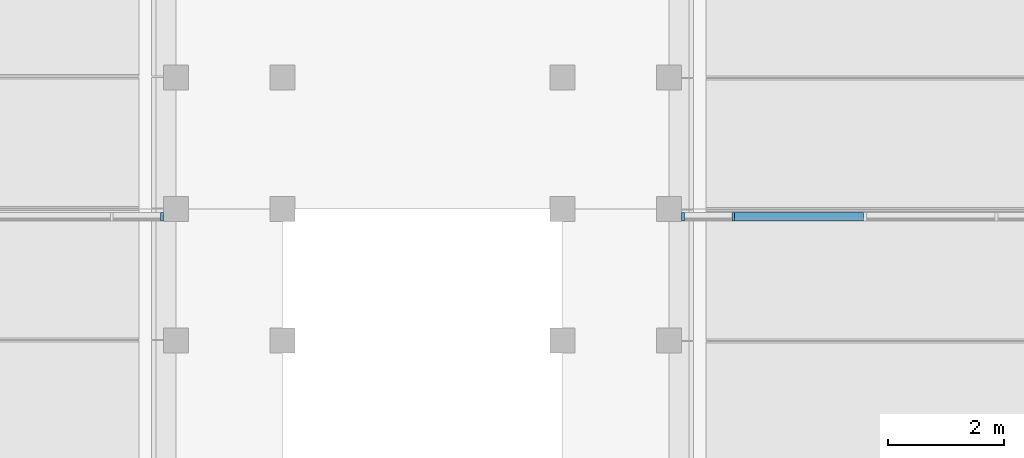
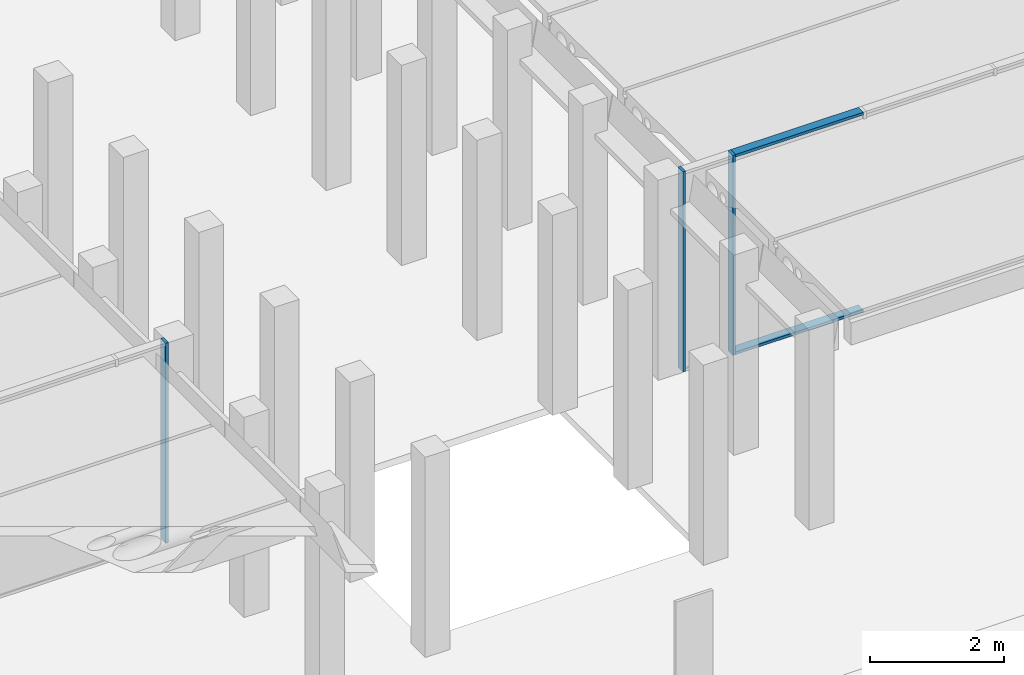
# One storey, part 10 of 25: 5 members, 2 elements without a shape of their own.
"""IFC2X3 building model written with IfcOpenShell, lengths in millimetres."""

from ifc_helpers import new_model, entity, si_unit, converted_unit, derived_unit, direction, frame, origin, origin_2d_with_axis, place, context, subcontext, project, spatial, rectangle, extrude, source, transform, mapped, material, type_object, type_shapes, element, aggregate, save


model = new_model("IFC2X3")

# Units and contexts
model_context = context("Model", 3, precision=0.01, world=origin(), true_north=direction((6.12303176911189e-17, 1.0)))
body_context = subcontext(model_context, "Body", "Model", "MODEL_VIEW")
ifc_project = project(units=[si_unit("LENGTHUNIT", "METRE", prefix="MILLI"), si_unit("AREAUNIT", "SQUARE_METRE"), si_unit("VOLUMEUNIT", "CUBIC_METRE"), converted_unit("PLANEANGLEUNIT", "DEGREE", entity("IfcRatioMeasure", 0.0174532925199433), si_unit("PLANEANGLEUNIT", "RADIAN"), dimensions=[0, 0, 0, 0, 0, 0, 0]), si_unit("MASSUNIT", "GRAM", prefix="KILO"), derived_unit("MASSDENSITYUNIT", [(si_unit("MASSUNIT", "GRAM", prefix="KILO"), 1), (si_unit("LENGTHUNIT", "METRE"), -3)]), derived_unit("MOMENTOFINERTIAUNIT", [(si_unit("LENGTHUNIT", "METRE"), 4)]), si_unit("TIMEUNIT", "SECOND"), si_unit("FREQUENCYUNIT", "HERTZ"), si_unit("THERMODYNAMICTEMPERATUREUNIT", "DEGREE_CELSIUS"), derived_unit("THERMALTRANSMITTANCEUNIT", [(si_unit("MASSUNIT", "GRAM", prefix="KILO"), 1), (si_unit("THERMODYNAMICTEMPERATUREUNIT", "KELVIN"), -1), (si_unit("TIMEUNIT", "SECOND"), -3)]), derived_unit("VOLUMETRICFLOWRATEUNIT", [(si_unit("LENGTHUNIT", "METRE"), 3), (si_unit("TIMEUNIT", "SECOND"), -1)]), si_unit("ELECTRICCURRENTUNIT", "AMPERE"), si_unit("ELECTRICVOLTAGEUNIT", "VOLT"), si_unit("POWERUNIT", "WATT"), si_unit("FORCEUNIT", "NEWTON", prefix="KILO"), si_unit("ILLUMINANCEUNIT", "LUX"), si_unit("LUMINOUSFLUXUNIT", "LUMEN"), si_unit("LUMINOUSINTENSITYUNIT", "CANDELA"), derived_unit("USERDEFINED", [(si_unit("MASSUNIT", "GRAM", prefix="KILO"), -1), (si_unit("LENGTHUNIT", "METRE"), -2), (si_unit("TIMEUNIT", "SECOND"), 3), (si_unit("LUMINOUSFLUXUNIT", "LUMEN"), 1)]), derived_unit("LINEARVELOCITYUNIT", [(si_unit("LENGTHUNIT", "METRE"), 1), (si_unit("TIMEUNIT", "SECOND"), -1)]), si_unit("PRESSUREUNIT", "PASCAL"), derived_unit("USERDEFINED", [(si_unit("LENGTHUNIT", "METRE"), -2), (si_unit("MASSUNIT", "GRAM", prefix="KILO"), 1), (si_unit("TIMEUNIT", "SECOND"), -2)]), derived_unit("LINEARFORCEUNIT", [(si_unit("MASSUNIT", "GRAM", prefix="KILO"), 1), (si_unit("LENGTHUNIT", "METRE"), 1), (si_unit("TIMEUNIT", "SECOND"), -2), (si_unit("LENGTHUNIT", "METRE"), -1)]), derived_unit("PLANARFORCEUNIT", [(si_unit("MASSUNIT", "GRAM", prefix="KILO"), 1), (si_unit("LENGTHUNIT", "METRE"), 1), (si_unit("TIMEUNIT", "SECOND"), -2), (si_unit("LENGTHUNIT", "METRE"), -2)])], contexts=[model_context])

# Site, building, storey
site_placement = place(None, frame((10627.5135316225, 21939.0796949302, 0.0)))
site = spatial("IfcSite", under=ifc_project, at=site_placement, Name="Default", CompositionType="ELEMENT")
building_placement = place(site_placement, origin())
building = spatial("IfcBuilding", under=site, at=building_placement, CompositionType="ELEMENT")
storey_placement = place(building_placement, origin())
storey = spatial("IfcBuildingStorey", under=building, at=storey_placement, Name="RDC", CompositionType="ELEMENT", Elevation=0.0)

# Curtain wall, member
curtain_wall_type = type_object("IfcCurtainWallType", Name="Curtain Wall:Curtain_Wall-Empty 2", PredefinedType="NOTDEFINED")
curtain_wall_1_placement = place(storey_placement, origin())
curtain_wall_1 = element("IfcCurtainWall", 1, at=curtain_wall_1_placement, inside=storey, type_object=curtain_wall_type, Name="Curtain Wall:Curtain_Wall-Empty 2", ObjectType="Curtain Wall:Curtain_Wall-Empty 2")
ifc_material = material(Name="Aluminium")
member_type_1 = type_object("IfcMemberType", Name="Rectangular Mullion:50x150mm", PredefinedType="MULLION", material=ifc_material)
shared_shape_1 = source(origin(), body_context, "Body", "SweptSolid", [
    extrude(rectangle(XDim=150.0, YDim=50.0, at=origin_2d_with_axis()), frame((-25.0, 0.0, -3660.0), z_axis=(0.0, 0.0, 1.0), x_axis=(0.0, -1.0, 0.0)), (0.0, 0.0, 1.0), 3660.0),
])
type_shapes(member_type_1, [shared_shape_1])
member_1_placement = place(storey_placement, frame((22129.4864683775, -10774.0796949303, 0.0), z_axis=(0.0, 0.0, -1.0), x_axis=(1.0, 0.0, 0.0)))
member_1 = element("IfcMember", 2, at=member_1_placement, type_object=member_type_1, material=ifc_material, Name="Rectangular Mullion:50x150mm", ObjectType="Rectangular Mullion:50x150mm", context=body_context, shape_type="MappedRepresentation", body=[
    mapped(shared_shape_1, transform((0.0, 0.0, 0.0), scale=1.0)),
])
aggregate(curtain_wall_1, [member_1])

# Curtain wall, members
curtain_wall_2_placement = place(storey_placement, origin())
curtain_wall_2 = element("IfcCurtainWall", 3, at=curtain_wall_2_placement, inside=storey, type_object=curtain_wall_type, Name="Curtain Wall:Curtain_Wall-Empty 2", ObjectType="Curtain Wall:Curtain_Wall-Empty 2")
member_type_2 = type_object("IfcMemberType", Name="Rectangular Mullion:50x150mm", PredefinedType="MULLION", material=ifc_material)
shared_shape_2 = source(origin(), body_context, "Body", "SweptSolid", [
    extrude(rectangle(XDim=150.0, YDim=50.0, at=origin_2d_with_axis()), frame((-25.0, 0.0, -2210.0), z_axis=(0.0, 0.0, 1.0), x_axis=(0.0, -1.0, 0.0)), (0.0, 0.0, 1.0), 2210.0000003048),
])
type_shapes(member_type_2, [shared_shape_2])
member_2_placement = place(storey_placement, frame((31939.4864680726, -10774.0796949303, 3660.0), z_axis=(-1.0, 0.0, 0.0), x_axis=(0.0, 0.0, 1.0)))
member_2 = element("IfcMember", 4, at=member_2_placement, type_object=member_type_2, material=ifc_material, Name="Rectangular Mullion:50x150mm", ObjectType="Rectangular Mullion:50x150mm", context=body_context, shape_type="MappedRepresentation", body=[
    mapped(shared_shape_2, transform((0.0, 0.0, 0.0), scale=1.0)),
])
member_type_3 = type_object("IfcMemberType", Name="Rectangular Mullion:50x150mm", PredefinedType="MULLION", material=ifc_material)
shared_shape_3 = source(origin(), body_context, "Body", "SweptSolid", [
    extrude(rectangle(XDim=150.0, YDim=50.0, at=origin_2d_with_axis()), frame((-25.0, 0.0, -2210.0), z_axis=(0.0, 0.0, 1.0), x_axis=(0.0, -1.0, 0.0)), (0.0, 0.0, 1.0), 2210.0000003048),
])
type_shapes(member_type_3, [shared_shape_3])
member_3_placement = place(storey_placement, frame((34149.4864680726, -10774.0796949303, 0.0), z_axis=(1.0, 0.0, 0.0), x_axis=(0.0, 0.0, -1.0)))
member_3 = element("IfcMember", 5, at=member_3_placement, type_object=member_type_3, material=ifc_material, Name="Rectangular Mullion:50x150mm", ObjectType="Rectangular Mullion:50x150mm", context=body_context, shape_type="MappedRepresentation", body=[
    mapped(shared_shape_3, transform((0.0, 0.0, 0.0), scale=1.0)),
])
member_type_4 = type_object("IfcMemberType", Name="Rectangular Mullion:50x150mm", PredefinedType="MULLION", material=ifc_material)
shared_shape_4 = source(origin(), body_context, "Body", "SweptSolid", [
    extrude(rectangle(XDim=150.0, YDim=50.0, at=origin_2d_with_axis()), frame((-25.0, 0.0, -3660.0), z_axis=(0.0, 0.0, 1.0), x_axis=(0.0, -1.0, 0.0)), (0.0, 0.0, 1.0), 3660.0),
])
type_shapes(member_type_4, [shared_shape_4])
member_4_placement = place(storey_placement, frame((31025.4864683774, -10774.0796949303, 0.0), z_axis=(0.0, 0.0, -1.0), x_axis=(-1.0, 0.0, 0.0)))
member_4 = element("IfcMember", 6, at=member_4_placement, type_object=member_type_4, material=ifc_material, Name="Rectangular Mullion:50x150mm", ObjectType="Rectangular Mullion:50x150mm", context=body_context, shape_type="MappedRepresentation", body=[
    mapped(shared_shape_4, transform((0.0, 0.0, 0.0), scale=1.0)),
])
member_type_5 = type_object("IfcMemberType", Name="Rectangular Mullion:50x150mm", PredefinedType="MULLION", material=ifc_material)
shared_shape_5 = source(origin(), body_context, "Body", "SweptSolid", [
    extrude(rectangle(XDim=150.0, YDim=50.0, at=origin_2d_with_axis()), frame((0.0, 0.0, -3660.0), z_axis=(0.0, 0.0, 1.0), x_axis=(0.0, -1.0, 0.0)), (0.0, 0.0, 1.0), 3660.0),
])
type_shapes(member_type_5, [shared_shape_5])
member_5_placement = place(storey_placement, frame((31914.4864680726, -10774.0796949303, 0.0), z_axis=(0.0, 0.0, -1.0), x_axis=(-1.0, 0.0, 0.0)))
member_5 = element("IfcMember", 7, at=member_5_placement, type_object=member_type_5, material=ifc_material, Name="Rectangular Mullion:50x150mm", ObjectType="Rectangular Mullion:50x150mm", context=body_context, shape_type="MappedRepresentation", body=[
    mapped(shared_shape_5, transform((0.0, 0.0, 0.0), scale=1.0)),
])
aggregate(curtain_wall_2, [member_2, member_3, member_4, member_5])

save(model, "model.ifc")
